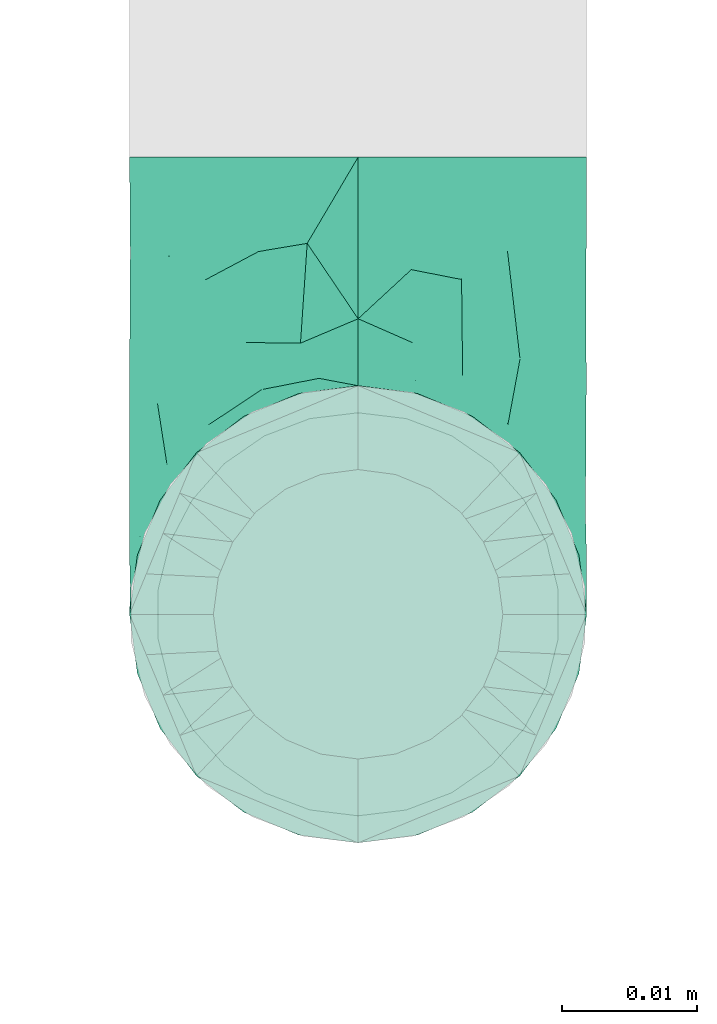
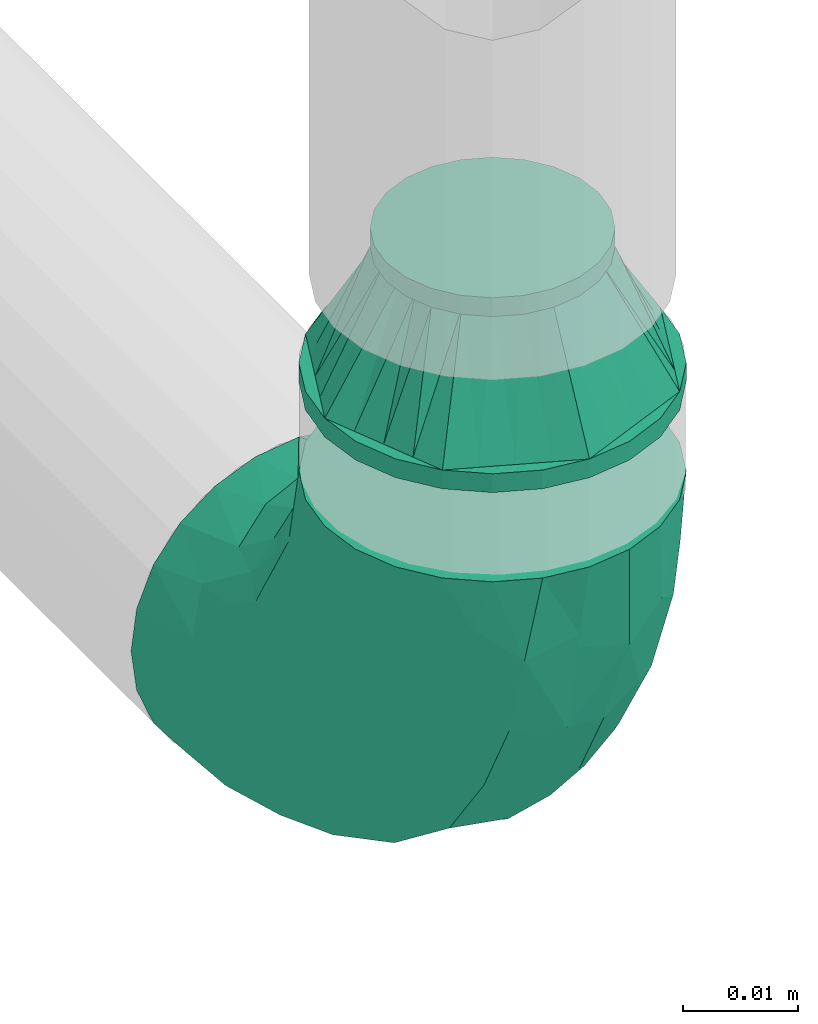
# One storey, part 8 of 32: 2 flow fittings.
"""IFC2X3 building model written with IfcOpenShell, lengths in millimetres."""

from ifc_helpers import new_model, entity, si_unit, converted_unit, derived_unit, direction, frame, origin_with_axes, place, context, subcontext, project, spatial, open_shell, surface_model, source, transform, mapped, type_object, element, save


model = new_model("IFC2X3")

# Units and contexts
model_context = context("Model", 3, precision=0.01, world=frame((0.0, 4.29681676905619e-09, 0.0)), true_north=direction((4.01073788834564e-13, 1.0)))
plan_context = context("Plan", 3, precision=0.01, world=frame((0.0, 4.29681676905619e-09, 0.0)), true_north=direction((4.01073788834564e-13, 1.0)))
body_context = subcontext(model_context, "Body", "Model", "MODEL_VIEW")
ifc_project = project(units=[converted_unit("PLANEANGLEUNIT", "DEGREE", entity("IfcPositiveLengthMeasure", 0.0174532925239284), si_unit("PLANEANGLEUNIT", "RADIAN"), dimensions=[0, 0, 0, 0, 0, 0, 0]), si_unit("AREAUNIT", "SQUARE_METRE"), si_unit("LENGTHUNIT", "METRE", prefix="MILLI"), si_unit("MASSUNIT", "GRAM", prefix="KILO"), si_unit("POWERUNIT", "WATT"), si_unit("PRESSUREUNIT", "PASCAL", prefix="KILO"), si_unit("FORCEUNIT", "NEWTON", prefix="KILO"), si_unit("ELECTRICVOLTAGEUNIT", "VOLT"), si_unit("ELECTRICCURRENTUNIT", "AMPERE"), si_unit("THERMODYNAMICTEMPERATUREUNIT", "DEGREE_CELSIUS"), si_unit("TIMEUNIT", "SECOND"), si_unit("VOLUMEUNIT", "CUBIC_METRE"), derived_unit("LINEARVELOCITYUNIT", [(si_unit("LENGTHUNIT", "METRE"), 1), (si_unit("TIMEUNIT", "SECOND"), -1)]), derived_unit("VOLUMETRICFLOWRATEUNIT", [(si_unit("VOLUMEUNIT", "CUBIC_METRE"), 1), (si_unit("TIMEUNIT", "SECOND"), -1)]), derived_unit("THERMALTRANSMITTANCEUNIT", [(si_unit("POWERUNIT", "WATT"), 1), (si_unit("THERMODYNAMICTEMPERATUREUNIT", "KELVIN"), -1), (si_unit("AREAUNIT", "SQUARE_METRE"), -1)]), derived_unit("SOUNDPRESSUREUNIT", [(si_unit("PRESSUREUNIT", "PASCAL"), 1)])], contexts=[model_context, plan_context])

# Site, building, storey
site_placement = place(None, frame((0.0, -4.29681676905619e-09, 0.0), z_axis=(0.0, 0.0, 1.0), x_axis=(1.0, 0.0, 0.0)))
site = spatial("IfcSite", under=ifc_project, at=site_placement, CompositionType="ELEMENT")
building_placement = place(site_placement, frame((0.0, 4.29681676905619e-09, 0.0), z_axis=(0.0, 0.0, 1.0), x_axis=(1.0, 0.0, 0.0)))
building = spatial("IfcBuilding", under=site, at=building_placement, Name="mc-building", CompositionType="ELEMENT")
storey_placement = place(building_placement, frame((0.0, 0.0, 205200.0), z_axis=(0.0, 0.0, 1.0), x_axis=(1.0, 0.0, 0.0)))
storey = spatial("IfcBuildingStorey", under=building, at=storey_placement, Name="Nivå D + 1,2 m", CompositionType="ELEMENT", Elevation=205200.0)

# Flow fittings
pipe_fitting_type_1 = type_object("IfcPipeFittingType", Name="magi_pipe_fe_elbow_short_001", PredefinedType="BEND")
shared_shape_1 = source(origin_with_axes(), body_context, "Body", "SurfaceModel", [
    surface_model("IfcShellBasedSurfaceModel", [(-33.8, -11.9501, -11.9501), (-33.8, -14.63583, -8.45), (-33.8, -8.45, -14.63583), (-33.8, 0.0, -16.9), (-33.8, -4.37404, -16.32415), (-33.8, -16.32415, -4.37404), (-33.8, -16.9, 0.0), (-33.8, 11.9501, 11.9501), (-33.8, 14.63583, 8.45), (-33.8, 8.45, 14.63583), (-33.8, -11.9501, 11.9501), (-33.8, -8.45, 14.63583), (-33.8, -14.63583, 8.45), (-33.8, -16.32415, 4.37404), (-33.8, -4.37404, 16.32415), (-33.8, 0.0, 16.9), (-33.8, 16.9, 0.0), (-33.8, 16.32415, -4.37404), (-33.8, 16.32415, 4.37404), (-33.8, 4.37404, -16.32415), (-33.8, 8.45, -14.63583), (-33.8, 14.63583, -8.45), (-33.8, 11.9501, -11.9501), (-33.8, 4.37404, 16.32415), (-4.37404, 33.8, -16.32415), (16.9, 33.8, 0.0), (0.0, 33.8, -16.9), (-16.32415, 33.8, -4.37404), (-8.45, 33.8, -14.63583), (-14.63583, 33.8, -8.45), (-11.9501, 33.8, -11.9501), (16.32415, 33.8, 4.37404), (8.45, 33.8, -14.63583), (14.63583, 33.8, -8.45), (11.9501, 33.8, -11.9501), (4.37404, 33.8, -16.32415), (16.32415, 33.8, -4.37404), (-16.32415, 33.8, 4.37404), (-4.37404, 33.8, 16.32415), (-14.63583, 33.8, 8.45), (-8.45, 33.8, 14.63583), (-11.9501, 33.8, 11.9501), (14.63583, 33.8, 8.45), (8.45, 33.8, 14.63583), (11.9501, 33.8, 11.9501), (0.0, 33.8, 16.9), (4.37404, 33.8, 16.32415), (-16.9, 33.8, 0.0), (-24.79389, -13.12945, 9.48721), (-22.19287, -9.75018, 12.59315), (-24.09897, -14.97035, 0.0), (-14.93934, -10.76256, 8.5297), (-22.46095, -14.75051, 5.27077), (14.75051, 22.46094, 5.27077), (11.9251, 13.23888, 4.33236), (13.04069, 14.39795, 0.0), (7.71387, 13.68847, 11.55891), (9.75018, 22.19287, 12.59315), (4.10169, 13.0571, 14.04018), (-24.84007, -6.39063, 15.2048), (-25.81779, -2.23879, 16.61097), (-23.66549, 2.59054, 16.87119), (-26.50418, 14.06512, 11.08152), (-24.21253, 17.66365, 7.72657), (-29.58514, 15.86957, 7.00283), (-6.17382, -7.5455, 0.0), (-13.23888, -11.9251, 4.33236), (-14.39795, -13.04069, 0.0), (-17.81434, 18.87373, 11.97104), (-6.30846, 29.15138, 15.82987), (-2.31622, 25.28002, 16.85849), (-29.23923, 10.23435, 13.77053), (-1.45439, -2.85688, 7.61475), (-0.28326, 0.34872, 10.09509), (-5.74484, -4.04709, 10.4122), (-4.41137, 11.31918, 16.59407), (-8.39727, 3.10034, 15.7812), (-1.72649, 9.1306, 15.53089), (-17.39909, 24.75344, 7.64977), (-26.19233, 20.0512, 0.0), (-28.14518, 17.29657, 4.25857), (-26.05147, 6.6281, 15.96447), (-5.87354, 16.61944, 16.86968), (-12.51807, 12.51807, 16.48937), (-10.06312, 7.38516, 16.81295), (-3.01882, 3.01882, 13.81718), (-13.0571, -4.10169, 14.04018), (-16.82553, -0.15166, 16.38038), (10.76256, 14.93934, 8.5297), (13.12945, 24.79389, 9.48721), (6.39063, 24.84007, 15.2048), (2.23879, 25.81779, 16.61097), (-13.68847, -7.71387, 11.55891), (14.97035, 24.09897, 0.0), (-7.30894, 22.89991, 16.09489), (-10.67958, 26.17414, 14.008), (-12.78295, 18.26924, 15.06066), (-13.88562, 22.45231, 12.93244), (-18.04944, 15.16501, 14.04434), (-23.11658, 20.08178, 4.02986), (-21.84989, 21.84989, 0.0), (-18.55817, 25.48277, 3.93065), (-13.95142, 26.94732, 11.03289), (-18.57098, 7.23906, 16.59756), (-16.58335, 4.14122, 16.89279), (-17.96666, 11.46709, 15.63151), (-9.84453, 17.54304, 16.18938), (0.15166, 16.82553, 16.38038), (-23.27207, 11.47201, 14.23154), (3.84842, 5.86994, 10.70473), (-8.0212, -7.54413, 7.93275), (1.00345, -2.19508, 4.57414), (5.13203, 3.01004, 5.90201), (5.24161, 1.7543, 2.53265), (8.70457, 7.04947, 3.99182), (-20.0512, 26.19233, 0.0), (8.4852, 8.76699, 7.09296), (-4.55488, -6.72064, 4.90681), (2.05031, -2.05031, 0.0), (7.5455, 6.17382, 0.0), (-26.75399, 2.1369, -16.845), (-14.61995, 24.73803, -11.27736), (-28.45274, -13.45335, -9.81895), (-26.00469, 6.63555, -15.96645), (-23.06726, 20.04573, -4.26202), (-13.80647, -4.26506, -14.17873), (-14.67501, -0.21081, -16.07388), (-6.7902, -0.2828, -13.8478), (-24.53586, 11.08096, -14.13417), (-26.72048, 14.00837, -11.05776), (10.0967, 24.44989, -12.75976), (5.83237, 21.40218, -15.03047), (6.66249, 28.54238, -15.38093), (-20.38182, 15.48705, -12.74596), (12.53268, 21.23441, -9.15363), (12.54494, 15.67504, -5.54878), (9.7522, 12.89279, -8.66343), (-15.65186, 19.64213, -13.01327), (-12.03528, 20.66498, -14.67665), (-15.61907, 15.61906, -14.83879), (-25.56551, -15.26206, 0.0), (-24.65452, -15.12934, -5.50955), (13.45335, 28.45274, -9.81895), (15.12934, 24.65452, -5.50955), (-7.35442, -8.31014, -5.65563), (-15.67504, -12.54494, -5.54878), (-24.44989, -10.0967, -12.75976), (0.16522, 0.41303, -9.71728), (-5.70658, -5.33066, -8.89288), (-5.13869, -2.37198, -11.53565), (-21.23441, -12.53268, -9.15363), (0.71146, 7.93863, -14.09382), (0.21081, 14.67501, -16.07388), (3.49291, 14.42772, -14.76381), (-24.89911, -2.13088, -16.591), (-28.54238, -6.66249, -15.38093), (-18.44386, -7.71663, -13.26957), (2.13088, 24.89911, -16.591), (-28.64342, 17.44413, -2.89318), (1.70017, -1.28722, -5.09504), (-16.57067, 26.81947, -7.36596), (-17.69055, 27.4263, -3.76405), (-12.89279, -9.7522, -8.66343), (-5.96611, 5.96611, -15.95814), (-20.53709, 20.09345, -8.28985), (-2.1369, 26.75399, -16.845), (-6.89872, 24.58781, -16.02578), (-10.60739, 26.53157, -13.98044), (-21.40218, -5.83237, -15.03047), (2.93192, 5.89627, -11.55917), (6.89393, 12.61842, -11.82233), (5.58056, 5.95325, -8.79455), (-3.99512, 18.61798, -16.89635), (8.31014, 7.35442, -5.65563), (-9.1383, 9.86148, -16.89041), (-9.99983, 16.02119, -16.39699), (-16.68576, 9.78031, -16.34199), (-27.01915, 16.61158, -7.12979), (15.26206, 25.56551, 0.0), (-18.61798, 3.99512, -16.89635), (-19.37495, 27.82495, 0.0), (-12.61842, -6.89393, -11.82233), (-18.84705, 19.14018, -10.96545)], [open_shell([[[0, 1, 2]], [[3, 4, 2]], [[5, 6, 1]], [[7, 8, 9]], [[10, 11, 12]], [[13, 12, 11]], [[14, 15, 11]], [[16, 17, 18]], [[3, 6, 19]], [[20, 19, 17]], [[20, 17, 21]], [[22, 20, 21]], [[17, 19, 6]], [[2, 1, 6]], [[2, 6, 3]], [[6, 18, 17]], [[23, 18, 6]], [[8, 18, 23]], [[8, 23, 9]], [[13, 23, 6]], [[23, 13, 11]], [[11, 15, 23]], [[24, 25, 26]], [[27, 24, 28]], [[29, 27, 28]], [[29, 28, 30]], [[31, 25, 24]], [[32, 33, 34]], [[32, 35, 26]], [[33, 25, 36]], [[33, 32, 26]], [[25, 33, 26]], [[24, 27, 37]], [[31, 24, 37]], [[38, 37, 39]], [[40, 38, 39]], [[40, 39, 41]], [[31, 37, 38]], [[42, 43, 44]], [[43, 42, 31]], [[43, 45, 46]], [[43, 31, 38]], [[38, 45, 43]], [[37, 27, 47]], [[10, 48, 49]], [[13, 6, 50]], [[51, 48, 52]], [[53, 54, 55]], [[48, 10, 12]], [[13, 52, 12]], [[56, 57, 58]], [[49, 11, 10]], [[49, 59, 11]], [[15, 60, 61]], [[62, 63, 64]], [[65, 66, 67]], [[57, 44, 43]], [[62, 68, 63]], [[38, 69, 70]], [[9, 71, 7]], [[14, 60, 15]], [[72, 73, 74]], [[75, 76, 77]], [[7, 62, 8]], [[39, 37, 78]], [[79, 16, 80]], [[64, 18, 8]], [[15, 61, 23]], [[23, 81, 9]], [[82, 83, 84]], [[74, 85, 86]], [[59, 86, 87]], [[88, 89, 57]], [[90, 43, 46]], [[42, 53, 31]], [[46, 45, 91]], [[54, 53, 88]], [[42, 89, 53]], [[92, 86, 49]], [[89, 42, 44]], [[11, 59, 14]], [[53, 55, 93]], [[93, 31, 53]], [[66, 52, 67]], [[94, 82, 70]], [[95, 96, 94]], [[97, 98, 96]], [[79, 99, 100]], [[40, 41, 95]], [[101, 100, 99]], [[68, 78, 63]], [[38, 40, 69]], [[16, 18, 80]], [[95, 94, 69]], [[78, 101, 99]], [[41, 102, 95]], [[70, 45, 38]], [[97, 95, 102]], [[13, 50, 52]], [[90, 57, 43]], [[57, 90, 58]], [[81, 23, 61]], [[103, 104, 84]], [[105, 81, 103]], [[41, 39, 102]], [[106, 96, 83]], [[94, 106, 82]], [[91, 70, 107]], [[71, 62, 7]], [[62, 108, 98]], [[86, 59, 49]], [[67, 52, 50]], [[60, 59, 87]], [[92, 49, 51]], [[86, 85, 76]], [[91, 90, 46]], [[25, 31, 93]], [[107, 77, 58]], [[107, 58, 90]], [[58, 85, 109]], [[110, 74, 92]], [[72, 74, 110]], [[66, 51, 52]], [[72, 111, 112]], [[113, 114, 112]], [[56, 88, 57]], [[52, 48, 12]], [[49, 48, 51]], [[57, 89, 44]], [[53, 89, 88]], [[103, 81, 61]], [[71, 81, 108]], [[18, 64, 80]], [[63, 78, 99]], [[47, 115, 101]], [[101, 115, 100]], [[39, 78, 102]], [[68, 102, 78]], [[97, 96, 95]], [[105, 98, 108]], [[103, 84, 83]], [[107, 70, 82]], [[76, 84, 87]], [[82, 84, 75]], [[70, 91, 45]], [[90, 91, 107]], [[59, 60, 14]], [[61, 60, 87]], [[73, 85, 74]], [[109, 112, 116]], [[103, 61, 104]], [[105, 103, 83]], [[96, 105, 83]], [[81, 105, 108]], [[96, 98, 105]], [[62, 98, 68]], [[61, 87, 104]], [[87, 84, 104]], [[86, 76, 87]], [[77, 76, 85]], [[58, 77, 85]], [[75, 77, 107]], [[82, 75, 107]], [[76, 75, 84]], [[81, 71, 9]], [[62, 71, 108]], [[95, 69, 40]], [[70, 69, 94]], [[62, 64, 8]], [[80, 63, 99]], [[63, 80, 64]], [[80, 99, 79]], [[66, 65, 117]], [[110, 66, 117]], [[112, 114, 116]], [[118, 117, 65]], [[110, 92, 51]], [[112, 111, 113]], [[119, 55, 54]], [[74, 86, 92]], [[58, 109, 56]], [[116, 56, 109]], [[66, 110, 51]], [[72, 110, 117]], [[111, 72, 117]], [[73, 112, 109]], [[117, 118, 111]], [[113, 111, 118]], [[118, 119, 113]], [[114, 119, 54]], [[119, 114, 113]], [[116, 54, 88]], [[54, 116, 114]], [[116, 88, 56]], [[112, 73, 72]], [[85, 73, 109]], [[78, 37, 101]], [[47, 101, 37]], [[102, 68, 97]], [[97, 68, 98]], [[82, 106, 83]], [[94, 96, 106]], [[19, 120, 3]], [[29, 30, 121]], [[0, 122, 1]], [[20, 123, 19]], [[100, 124, 79]], [[125, 126, 127]], [[128, 22, 129]], [[130, 131, 132]], [[128, 129, 133]], [[134, 135, 136]], [[137, 138, 139]], [[128, 20, 22]], [[67, 140, 141]], [[134, 142, 143]], [[141, 5, 1]], [[144, 65, 145]], [[146, 0, 2]], [[147, 148, 149]], [[145, 141, 150]], [[151, 152, 153]], [[154, 4, 3]], [[2, 155, 146]], [[150, 146, 156]], [[155, 2, 4]], [[143, 135, 134]], [[35, 157, 26]], [[16, 79, 158]], [[148, 159, 144]], [[160, 161, 27]], [[145, 162, 144]], [[163, 152, 151]], [[27, 29, 160]], [[121, 164, 160]], [[32, 34, 130]], [[26, 165, 24]], [[24, 165, 166]], [[142, 34, 33]], [[30, 28, 167]], [[124, 161, 164]], [[157, 35, 132]], [[155, 154, 168]], [[123, 20, 128]], [[169, 170, 171]], [[172, 157, 152]], [[24, 166, 28]], [[132, 35, 32]], [[142, 130, 34]], [[168, 154, 126]], [[136, 135, 173]], [[133, 137, 139]], [[22, 21, 129]], [[170, 131, 130]], [[33, 36, 143]], [[172, 174, 175]], [[176, 123, 128]], [[158, 177, 17]], [[135, 55, 119]], [[167, 28, 166]], [[175, 166, 172]], [[137, 167, 138]], [[122, 141, 1]], [[140, 6, 5]], [[36, 25, 178]], [[170, 130, 134]], [[152, 157, 131]], [[165, 157, 172]], [[153, 170, 151]], [[152, 163, 174]], [[168, 125, 156]], [[122, 146, 150]], [[120, 154, 3]], [[179, 174, 126]], [[179, 126, 154]], [[126, 163, 127]], [[162, 145, 150]], [[140, 5, 141]], [[36, 178, 143]], [[55, 143, 178]], [[177, 129, 21]], [[128, 133, 139]], [[176, 128, 139]], [[120, 123, 179]], [[121, 160, 29]], [[161, 100, 180]], [[166, 175, 138]], [[121, 30, 167]], [[161, 47, 27]], [[79, 124, 158]], [[124, 164, 177]], [[161, 124, 100]], [[136, 171, 170]], [[127, 163, 151]], [[147, 171, 159]], [[148, 144, 162]], [[127, 151, 169]], [[127, 181, 125]], [[129, 177, 164]], [[21, 17, 177]], [[159, 65, 144]], [[67, 141, 145]], [[143, 55, 135]], [[135, 119, 173]], [[123, 120, 19]], [[154, 120, 179]], [[157, 165, 26]], [[166, 165, 172]], [[172, 152, 174]], [[176, 139, 175]], [[126, 174, 163]], [[176, 174, 179]], [[174, 176, 175]], [[123, 176, 179]], [[150, 181, 162]], [[127, 149, 181]], [[181, 148, 162]], [[159, 148, 147]], [[171, 136, 173]], [[170, 134, 136]], [[159, 171, 173]], [[171, 147, 169]], [[169, 147, 149]], [[151, 170, 169]], [[164, 182, 129]], [[182, 121, 137]], [[181, 149, 148]], [[169, 149, 127]], [[182, 137, 133]], [[167, 137, 121]], [[166, 138, 167]], [[175, 139, 138]], [[129, 182, 133]], [[121, 182, 164]], [[161, 160, 164]], [[47, 161, 180]], [[177, 158, 124]], [[16, 158, 17]], [[130, 132, 32]], [[157, 132, 131]], [[143, 142, 33]], [[130, 142, 134]], [[154, 155, 4]], [[146, 155, 168]], [[146, 122, 0]], [[141, 122, 150]], [[152, 131, 153]], [[159, 119, 118]], [[67, 145, 65]], [[170, 153, 131]], [[119, 159, 173]], [[159, 118, 65]], [[156, 125, 181]], [[126, 125, 168]], [[150, 156, 181]], [[168, 156, 146]]])]),
])
flow_fitting_1_placement = place(storey_placement, frame((328269.97595, 462166.9875, 4357.43145999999), z_axis=(1.0, 0.0, 0.0), x_axis=(0.0, 0.0, -1.0)))
element("IfcFlowFitting", 1, at=flow_fitting_1_placement, inside=storey, type_object=pipe_fitting_type_1, Name="magi_pipe_fe_elbow_short_001", context=body_context, shape_type="MappedRepresentation", body=[
    mapped(shared_shape_1, transform((0.0, 0.0, 0.0), scale=1.0)),
])
pipe_fitting_type_2 = type_object("IfcPipeFittingType", Name="magi_pipe_fe_reducer_centric_short_001", PredefinedType="TRANSITION")
shared_shape_2 = source(origin_with_axes(), body_context, "Body", "SurfaceModel", [
    surface_model("IfcShellBasedSurfaceModel", [(0.0, 11.9501, 11.9501), (0.0, 0.0, -16.9), (0.0, -16.9, 0.0), (0.0, -11.9501, -11.9501), (14.4, 10.33541, 2.76936), (14.4, 10.33541, -2.76936), (14.4, 10.7, 0.0), (0.0, 11.9501, -11.9501), (0.0, 16.9, 0.0), (12.4, -6.6875, -6.94985), (0.0, -13.18758, -8.96258), (0.0, 15.66253, -2.98753), (12.4, 10.7, 0.0), (12.4, 6.6875, -6.94985), (0.0, 8.96258, -13.18758), (12.4, 5.35, -9.26647), (0.0, 5.97505, -14.42505), (0.0, -8.96258, -13.18758), (12.4, -10.7, 0.0), (0.0, -15.66253, -2.98753), (0.0, -5.97505, -14.42505), (12.4, -5.35, -9.26647), (12.4, 9.3625, -2.31662), (12.4, 8.025, -4.63324), (0.0, 14.42505, -5.97505), (0.0, -14.42505, -5.97505), (12.4, -8.025, -4.63324), (12.4, -9.3625, -2.31662), (12.4, -2.675, -9.26647), (0.0, -2.98753, -15.66253), (0.0, 13.18758, -8.96258), (0.0, 2.98753, -15.66253), (12.4, 2.675, -9.26647), (12.4, 6.6875, 6.94985), (0.0, 13.18758, 8.96258), (0.0, -15.66253, 2.98753), (0.0, -11.9501, 11.9501), (12.4, -6.6875, 6.94985), (0.0, -8.96258, 13.18758), (12.4, -5.35, 9.26647), (0.0, -5.97505, 14.42505), (0.0, 8.96258, 13.18758), (0.0, 15.66253, 2.98753), (0.0, 5.97505, 14.42505), (12.4, 5.35, 9.26647), (12.4, -9.3625, 2.31662), (12.4, -8.025, 4.63324), (0.0, -14.42505, 5.97505), (0.0, 14.42505, 5.97505), (12.4, 8.025, 4.63324), (12.4, 9.3625, 2.31662), (12.4, 2.675, 9.26647), (0.0, 2.98753, 15.66253), (0.0, -13.18758, 8.96258), (0.0, -2.98753, 15.66253), (12.4, -2.675, 9.26647), (-2.0, -4.37404, 16.32415), (-2.0, 0.0, 16.9), (-2.0, -11.9501, 11.9501), (-2.0, -8.45, 14.63583), (-2.0, -16.32415, 4.37404), (-2.0, -14.63583, 8.45), (-2.0, 16.32415, 4.37404), (-2.0, 11.9501, 11.9501), (-2.0, 14.63583, 8.45), (-2.0, 8.45, 14.63583), (-2.0, 4.37404, 16.32415), (-2.0, 16.9, 0.0), (-2.0, 16.32415, -4.37404), (-2.0, 8.45, -14.63583), (-2.0, -11.9501, -11.9501), (-2.0, -16.32415, -4.37404), (-2.0, -14.63583, -8.45), (-2.0, -4.37404, -16.32415), (-2.0, -8.45, -14.63583), (-2.0, 0.0, -16.9), (-2.0, 14.63583, -8.45), (-2.0, 11.9501, -11.9501), (-2.0, 4.37404, -16.32415), (-2.0, -16.9, 0.0), (0.0, -8.45, -14.63583), (0.0, -4.37404, -16.32415), (0.0, 8.45, -14.63583), (0.0, -14.63583, -8.45), (0.0, -16.32415, -4.37404), (0.0, -4.37404, 16.32415), (0.0, 4.37404, -16.32415), (0.0, 14.63583, -8.45), (0.0, 16.32415, -4.37404), (0.0, -16.32415, 4.37404), (0.0, -14.63583, 8.45), (0.0, -8.45, 14.63583), (0.0, 0.0, 16.9), (0.0, 16.32415, 4.37404), (0.0, 14.63583, 8.45), (0.0, 8.45, 14.63583), (0.0, 4.37404, 16.32415), (14.4, -2.76936, -10.33541), (14.4, 0.0, -10.7), (14.4, -5.35, -9.26647), (14.4, -7.56604, -7.56604), (14.4, -10.33541, -2.76936), (14.4, -9.26647, -5.35), (14.4, 0.0, 10.7), (14.4, 2.76936, -10.33541), (14.4, 5.35, -9.26647), (14.4, 9.26647, -5.35), (14.4, 7.56604, -7.56604), (14.4, -10.33541, 2.76936), (14.4, -10.7, 0.0), (14.4, -7.56604, 7.56604), (14.4, -9.26647, 5.35), (14.4, -2.76936, 10.33541), (14.4, -5.35, 9.26647), (14.4, 9.26647, 5.35), (14.4, 7.56604, 7.56604), (14.4, 5.35, 9.26647), (14.4, 2.76936, 10.33541), (12.4, 0.0, 10.7), (12.4, 10.33541, -2.76936), (12.4, -2.76936, 10.33541), (12.4, -10.33541, 2.76936), (12.4, -9.26647, 5.35), (12.4, -7.56604, 7.56604), (12.4, 10.33541, 2.76936), (12.4, 7.56604, 7.56604), (12.4, 2.76936, 10.33541), (12.4, 9.26647, 5.35), (12.4, -10.33541, -2.76936), (12.4, -9.26647, -5.35), (12.4, -7.56604, -7.56604), (12.4, -2.76936, -10.33541), (12.4, 7.56604, -7.56604), (12.4, 9.26647, -5.35), (12.4, 2.76936, -10.33541), (12.4, 0.0, -10.7), (12.4, 0.0, -9.26647), (12.4, 0.0, 9.26647)], [open_shell([[[0, 1, 2]], [[3, 2, 1]], [[4, 5, 6]], [[7, 0, 8]], [[3, 9, 10]], [[11, 8, 12]], [[7, 13, 14]], [[15, 16, 14]], [[17, 9, 3]], [[18, 2, 19]], [[17, 20, 21]], [[22, 23, 24]], [[25, 26, 27]], [[28, 20, 29]], [[26, 25, 10]], [[30, 13, 7]], [[30, 24, 23]], [[26, 10, 9]], [[31, 16, 32]], [[0, 33, 34]], [[35, 2, 18]], [[36, 37, 38]], [[39, 40, 38]], [[41, 33, 0]], [[12, 8, 42]], [[41, 43, 44]], [[45, 46, 47]], [[48, 49, 50]], [[51, 43, 52]], [[49, 48, 34]], [[53, 37, 36]], [[53, 47, 46]], [[49, 34, 33]], [[54, 40, 55]], [[56, 57, 58]], [[59, 56, 58]], [[60, 61, 58]], [[57, 60, 58]], [[62, 60, 57]], [[63, 64, 65]], [[57, 66, 65]], [[57, 65, 64]], [[64, 62, 57]], [[67, 68, 62]], [[69, 60, 62]], [[70, 71, 60]], [[72, 71, 70]], [[73, 74, 70]], [[70, 60, 69]], [[70, 75, 73]], [[76, 77, 68]], [[69, 68, 77]], [[78, 75, 69]], [[69, 62, 68]], [[69, 75, 70]], [[79, 60, 71]], [[3, 80, 81]], [[3, 81, 1]], [[82, 8, 3]], [[83, 3, 84]], [[3, 85, 84]], [[86, 82, 1]], [[82, 3, 1]], [[87, 88, 7]], [[82, 7, 88]], [[88, 8, 82]], [[89, 2, 84]], [[36, 90, 89]], [[85, 36, 89]], [[3, 8, 85]], [[91, 36, 85]], [[92, 85, 8]], [[93, 94, 92]], [[92, 8, 93]], [[0, 95, 94]], [[95, 92, 94]], [[96, 92, 95]], [[89, 84, 85]], [[67, 88, 68]], [[68, 87, 76]], [[69, 77, 82]], [[7, 77, 76]], [[78, 69, 86]], [[88, 87, 68]], [[67, 8, 88]], [[69, 82, 86]], [[82, 77, 7]], [[76, 87, 7]], [[78, 86, 1]], [[1, 75, 78]], [[75, 81, 73]], [[73, 80, 74]], [[72, 70, 83]], [[3, 70, 74]], [[71, 72, 84]], [[80, 3, 74]], [[73, 81, 80]], [[71, 84, 2]], [[84, 72, 83]], [[70, 3, 83]], [[71, 2, 79]], [[1, 81, 75]], [[79, 89, 60]], [[60, 90, 61]], [[59, 58, 91]], [[36, 58, 61]], [[56, 59, 85]], [[89, 90, 60]], [[79, 2, 89]], [[59, 91, 85]], [[91, 58, 36]], [[61, 90, 36]], [[56, 85, 92]], [[92, 57, 56]], [[57, 96, 66]], [[66, 95, 65]], [[64, 63, 94]], [[0, 63, 65]], [[62, 64, 93]], [[95, 0, 65]], [[66, 96, 95]], [[62, 93, 8]], [[93, 64, 94]], [[63, 0, 94]], [[62, 8, 67]], [[92, 96, 57]], [[0, 2, 36]], [[36, 92, 0]], [[97, 98, 99]], [[100, 99, 101]], [[101, 99, 5]], [[102, 100, 101]], [[101, 5, 103]], [[104, 105, 98]], [[105, 99, 98]], [[106, 5, 107]], [[105, 107, 5]], [[105, 5, 99]], [[108, 109, 101]], [[110, 111, 108]], [[112, 110, 108]], [[112, 101, 103]], [[113, 110, 112]], [[5, 4, 103]], [[114, 115, 4]], [[116, 117, 115]], [[4, 115, 117]], [[4, 117, 103]], [[101, 112, 108]], [[118, 119, 120]], [[120, 119, 39]], [[121, 122, 123]], [[39, 119, 123]], [[119, 118, 124]], [[44, 125, 126]], [[124, 126, 125]], [[127, 124, 125]], [[124, 118, 126]], [[12, 119, 124]], [[123, 128, 121]], [[128, 123, 119]], [[129, 128, 21]], [[21, 128, 119]], [[130, 129, 21]], [[131, 21, 119]], [[132, 15, 133]], [[119, 133, 15]], [[134, 135, 15]], [[131, 119, 15]], [[15, 135, 131]], [[18, 121, 128]], [[12, 5, 119]], [[119, 106, 133]], [[15, 132, 105]], [[107, 132, 133]], [[134, 15, 104]], [[5, 106, 119]], [[12, 6, 5]], [[15, 105, 104]], [[105, 132, 107]], [[133, 106, 107]], [[134, 104, 98]], [[98, 135, 134]], [[135, 97, 131]], [[131, 99, 21]], [[129, 130, 102]], [[100, 130, 21]], [[128, 129, 101]], [[99, 100, 21]], [[131, 97, 99]], [[128, 101, 109]], [[101, 129, 102]], [[130, 100, 102]], [[128, 109, 18]], [[98, 97, 135]], [[18, 108, 121]], [[121, 111, 122]], [[39, 123, 113]], [[110, 123, 122]], [[120, 39, 112]], [[108, 111, 121]], [[18, 109, 108]], [[39, 113, 112]], [[113, 123, 110]], [[122, 111, 110]], [[120, 112, 103]], [[103, 118, 120]], [[118, 117, 126]], [[126, 116, 44]], [[127, 125, 114]], [[115, 125, 44]], [[124, 127, 4]], [[116, 115, 44]], [[126, 117, 116]], [[124, 4, 6]], [[4, 127, 114]], [[125, 115, 114]], [[124, 6, 12]], [[103, 117, 118]], [[12, 44, 39]], [[21, 12, 39]], [[18, 21, 39]], [[15, 12, 21]], [[1, 0, 7]], [[19, 25, 27]], [[19, 27, 18]], [[28, 21, 20]], [[21, 9, 17]], [[24, 11, 22]], [[1, 31, 136]], [[15, 14, 13]], [[32, 136, 31]], [[29, 1, 136]], [[23, 13, 30]], [[22, 11, 12]], [[32, 16, 15]], [[28, 29, 136]], [[42, 48, 50]], [[42, 50, 12]], [[51, 44, 43]], [[44, 33, 41]], [[47, 35, 45]], [[92, 54, 137]], [[39, 38, 37]], [[55, 137, 54]], [[52, 92, 137]], [[46, 37, 53]], [[45, 35, 18]], [[55, 40, 39]], [[51, 52, 137]]])]),
])
flow_fitting_2_placement = place(storey_placement, frame((328269.97595, 462166.9875, 4402.73146000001), z_axis=(-1.0, 0.0, 0.0), x_axis=(0.0, 0.0, 1.0)))
element("IfcFlowFitting", 2, at=flow_fitting_2_placement, inside=storey, type_object=pipe_fitting_type_2, Name="magi_pipe_fe_reducer_centric_short_001", context=body_context, shape_type="MappedRepresentation", body=[
    mapped(shared_shape_2, transform((0.0, 0.0, 0.0), scale=1.0)),
])

save(model, "model.ifc")
